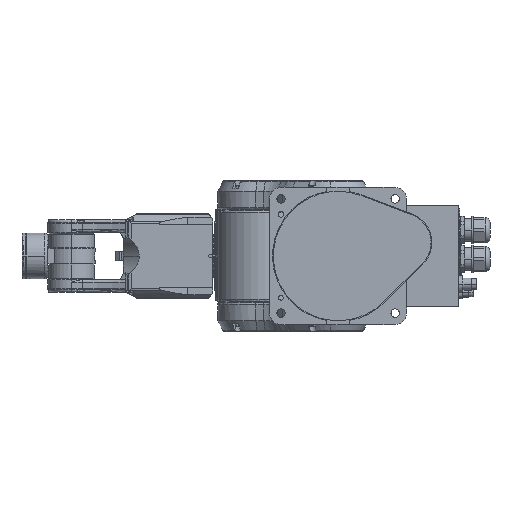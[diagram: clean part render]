
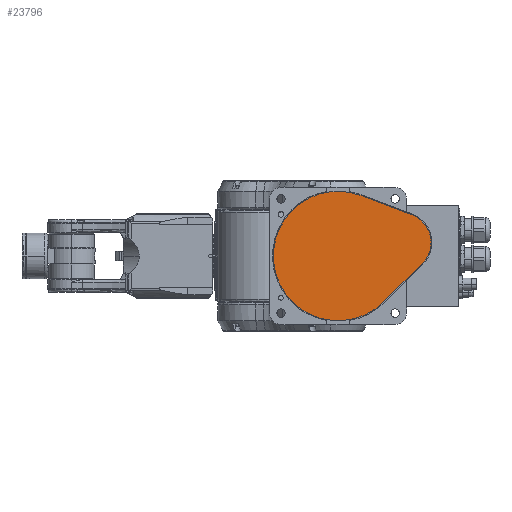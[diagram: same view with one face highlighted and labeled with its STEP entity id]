
A CAD part, front view. The second image highlights one B-rep face of the part: STEP entity #23796.
In plain terms, the highlighted planar face has unit normal (0, -1, 0).
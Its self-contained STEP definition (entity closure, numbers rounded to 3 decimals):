
#16954 = EDGE_CURVE( '', #31272, #25642, #41840, .T. );
#23542 = EDGE_CURVE( '', #23598, #31272, #49186, .T. );
#23598 = VERTEX_POINT( '', #49250 );
#23796 = ADVANCED_FACE( '', ( #49467 ), #49468, .F. );
#24270 = EDGE_CURVE( '', #25642, #34144, #49975, .T. );
#25642 = VERTEX_POINT( '', #51487 );
#25866 = EDGE_CURVE( '', #30924, #23598, #51751, .T. );
#30924 = VERTEX_POINT( '', #57340 );
#31272 = VERTEX_POINT( '', #57733 );
#34144 = VERTEX_POINT( '', #60935 );
#36094 = EDGE_CURVE( '', #34144, #30924, #63106, .T. );
#41840 = CIRCLE( '', #71447, 39. );
#49186 = LINE( '', #82369, #82370 );
#49250 = CARTESIAN_POINT( '', ( 30.137, 3.5, 79.478 ) );
#49467 = FACE_OUTER_BOUND( '', #82773, .T. );
#49468 = PLANE( '', #82774 );
#49975 = LINE( '', #83576, #83577 );
#51487 = CARTESIAN_POINT( '', ( 110.603, 3.5, -10.021 ) );
#51751 = CIRCLE( '', #86342, 85. );
#57340 = CARTESIAN_POINT( '', ( -59.856, 3.5, 60.351 ) );
#57733 = CARTESIAN_POINT( '', ( 96.968, 3.5, 54.136 ) );
#60935 = CARTESIAN_POINT( '', ( 59.856, 3.5, -60.351 ) );
#63106 = CIRCLE( '', #103438, 85. );
#71447 = AXIS2_PLACEMENT_3D( '', #110475, #110476, #110477 );
#82369 = CARTESIAN_POINT( '', ( 30.137, 3.5, 79.478 ) );
#82370 = VECTOR( '', #119284, 1. );
#82773 = EDGE_LOOP( '', ( #119610, #119611, #119612, #119613, #119614 ) );
#82774 = AXIS2_PLACEMENT_3D( '', #119615, #119616, #119617 );
#83576 = CARTESIAN_POINT( '', ( 110.603, 3.5, -10.021 ) );
#83577 = VECTOR( '', #120087, 1. );
#86342 = AXIS2_PLACEMENT_3D( '', #122114, #122115, #122116 );
#103438 = AXIS2_PLACEMENT_3D( '', #135107, #135108, #135109 );
#110475 = CARTESIAN_POINT( '', ( 83.14, 3.5, 17.67 ) );
#110476 = DIRECTION( '', ( 0., 1., 0. ) );
#110477 = DIRECTION( '', ( 0.355, 0., 0.935 ) );
#119284 = DIRECTION( '', ( 0.935, 0., -0.355 ) );
#119610 = ORIENTED_EDGE( '', *, *, #23542, .F. );
#119611 = ORIENTED_EDGE( '', *, *, #25866, .F. );
#119612 = ORIENTED_EDGE( '', *, *, #36094, .F. );
#119613 = ORIENTED_EDGE( '', *, *, #24270, .F. );
#119614 = ORIENTED_EDGE( '', *, *, #16954, .F. );
#119615 = CARTESIAN_POINT( '', ( 0., 3.5, 0. ) );
#119616 = DIRECTION( '', ( 0., 1., 0. ) );
#119617 = DIRECTION( '', ( 0., 0., 1. ) );
#120087 = DIRECTION( '', ( -0.71, 0., -0.704 ) );
#122114 = CARTESIAN_POINT( '', ( 0., 3.5, 0. ) );
#122115 = DIRECTION( '', ( 0., 1., 0. ) );
#122116 = DIRECTION( '', ( 0.704, 0., -0.71 ) );
#135107 = CARTESIAN_POINT( '', ( 0., 3.5, 0. ) );
#135108 = DIRECTION( '', ( 0., 1., 0. ) );
#135109 = DIRECTION( '', ( 0.704, 0., -0.71 ) );
